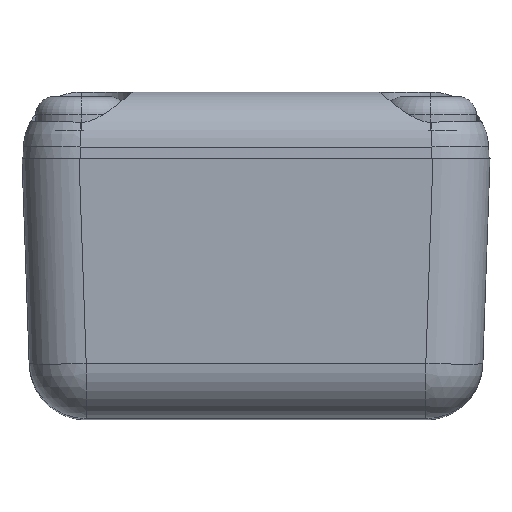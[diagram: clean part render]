
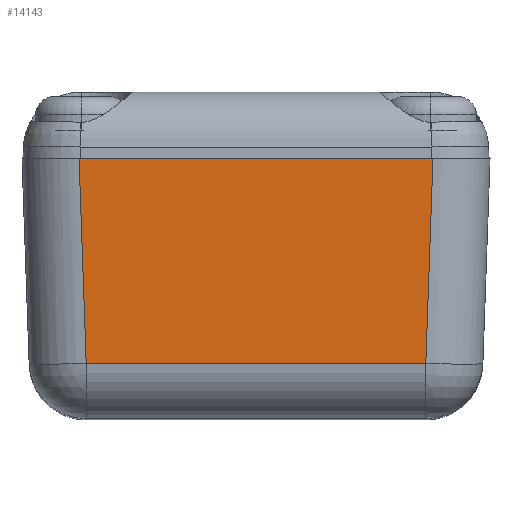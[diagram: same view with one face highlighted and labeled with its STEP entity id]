
A CAD part, top view. The second image highlights one B-rep face of the part: STEP entity #14143.
In plain terms, the highlighted planar face has unit normal (0, -0.035, 0.999).
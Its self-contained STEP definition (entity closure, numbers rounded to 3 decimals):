
#1347 = VECTOR ( 'NONE', #34398, 1000. ) ;
#1426 = ORIENTED_EDGE ( 'NONE', *, *, #20224, .T. ) ;
#5016 = DIRECTION ( 'NONE',  ( 0., -0.035, 0.999 ) ) ;
#6758 = CARTESIAN_POINT ( 'NONE',  ( -10.25, 0., 20.9 ) ) ;
#7318 = VERTEX_POINT ( 'NONE', #26025 ) ;
#7500 = CARTESIAN_POINT ( 'NONE',  ( 7.752, 0., 20.9 ) ) ;
#7705 = AXIS2_PLACEMENT_3D ( 'NONE', #20643, #5016, #13911 ) ;
#8023 = LINE ( 'NONE', #6758, #1347 ) ;
#9169 = CARTESIAN_POINT ( 'NONE',  ( -7.755, 0.087, 20.903 ) ) ;
#9608 = EDGE_CURVE ( 'NONE', #37079, #14707, #36155, .T. ) ;
#9969 = CARTESIAN_POINT ( 'NONE',  ( -7.438, -8.987, 20.586 ) ) ;
#10723 = ORIENTED_EDGE ( 'NONE', *, *, #13234, .F. ) ;
#12649 = VECTOR ( 'NONE', #36216, 1000. ) ;
#13234 = EDGE_CURVE ( 'NONE', #7318, #14707, #8023, .T. ) ;
#13911 = DIRECTION ( 'NONE',  ( 0., -0.999, -0.035 ) ) ;
#14143 = ADVANCED_FACE ( 'NONE', ( #14771 ), #38848, .T. ) ;
#14460 = EDGE_LOOP ( 'NONE', ( #1426, #16684, #10723, #32221 ) ) ;
#14707 = VERTEX_POINT ( 'NONE', #7500 ) ;
#14771 = FACE_OUTER_BOUND ( 'NONE', #14460, .T. ) ;
#16410 = VECTOR ( 'NONE', #27282, 1000. ) ;
#16575 = VECTOR ( 'NONE', #27280, 1000. ) ;
#16684 = ORIENTED_EDGE ( 'NONE', *, *, #9608, .T. ) ;
#20224 = EDGE_CURVE ( 'NONE', #28732, #37079, #32931, .T. ) ;
#20643 = CARTESIAN_POINT ( 'NONE',  ( -10.25, 0., 20.9 ) ) ;
#24001 = CARTESIAN_POINT ( 'NONE',  ( 9.852, -8.987, 20.586 ) ) ;
#26025 = CARTESIAN_POINT ( 'NONE',  ( -7.752, 0., 20.9 ) ) ;
#26415 = CARTESIAN_POINT ( 'NONE',  ( 7.438, -8.987, 20.586 ) ) ;
#27280 = DIRECTION ( 'NONE',  ( 0.035, -0.999, -0.035 ) ) ;
#27282 = DIRECTION ( 'NONE',  ( 0.035, 0.999, 0.035 ) ) ;
#28732 = VERTEX_POINT ( 'NONE', #9969 ) ;
#30063 = LINE ( 'NONE', #9169, #16575 ) ;
#32221 = ORIENTED_EDGE ( 'NONE', *, *, #39259, .T. ) ;
#32931 = LINE ( 'NONE', #24001, #12649 ) ;
#34398 = DIRECTION ( 'NONE',  ( 1., 0., 0. ) ) ;
#36155 = LINE ( 'NONE', #36414, #16410 ) ;
#36216 = DIRECTION ( 'NONE',  ( 1., 0., 0. ) ) ;
#36414 = CARTESIAN_POINT ( 'NONE',  ( 7.73, -0.627, 20.878 ) ) ;
#37079 = VERTEX_POINT ( 'NONE', #26415 ) ;
#38848 = PLANE ( 'NONE',  #7705 ) ;
#39259 = EDGE_CURVE ( 'NONE', #7318, #28732, #30063, .T. ) ;
